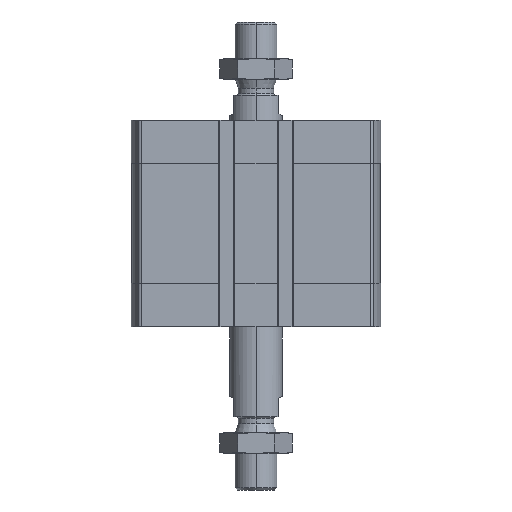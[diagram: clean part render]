
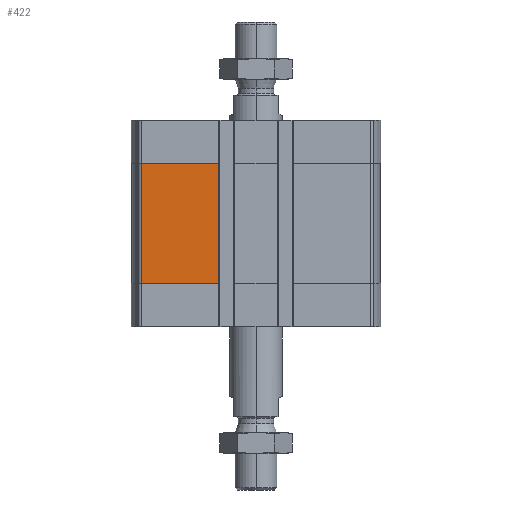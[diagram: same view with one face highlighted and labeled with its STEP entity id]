
A CAD part, left-side view. The second image highlights one B-rep face of the part: STEP entity #422.
In plain terms, the highlighted planar face has unit normal (-1, 0, 0).
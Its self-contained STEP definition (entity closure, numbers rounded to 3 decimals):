
#422 = ADVANCED_FACE ( 'NONE', ( #2578 ), #6779, .T. ) ;
#1522 = LINE ( 'NONE', #8152, #9710 ) ;
#2482 = DIRECTION ( 'NONE',  ( -1., 0., 0. ) ) ;
#2578 = FACE_OUTER_BOUND ( 'NONE', #16997, .T. ) ;
#2949 = ORIENTED_EDGE ( 'NONE', *, *, #13281, .F. ) ;
#3519 = LINE ( 'NONE', #14476, #5294 ) ;
#3626 = ORIENTED_EDGE ( 'NONE', *, *, #10074, .F. ) ;
#4252 = LINE ( 'NONE', #5695, #8572 ) ;
#4602 = VERTEX_POINT ( 'NONE', #10110 ) ;
#4980 = LINE ( 'NONE', #12047, #14545 ) ;
#5202 = DIRECTION ( 'NONE',  ( 0., 0., 1. ) ) ;
#5294 = VECTOR ( 'NONE', #7453, 1000. ) ;
#5539 = CARTESIAN_POINT ( 'NONE',  ( -47.5, 14.3, -62.5 ) ) ;
#5695 = CARTESIAN_POINT ( 'NONE',  ( -47.5, 43.743, -62.5 ) ) ;
#6205 = VERTEX_POINT ( 'NONE', #5539 ) ;
#6480 = DIRECTION ( 'NONE',  ( 0., 0., 1. ) ) ;
#6779 = PLANE ( 'NONE',  #17181 ) ;
#7453 = DIRECTION ( 'NONE',  ( 0., -1., 0. ) ) ;
#7990 = DIRECTION ( 'NONE',  ( 0., 0., 1. ) ) ;
#8152 = CARTESIAN_POINT ( 'NONE',  ( -47.5, 43.743, -62.5 ) ) ;
#8572 = VECTOR ( 'NONE', #13590, 1000. ) ;
#8626 = EDGE_CURVE ( 'NONE', #15901, #6205, #4252, .T. ) ;
#8895 = EDGE_CURVE ( 'NONE', #6205, #4602, #4980, .T. ) ;
#9222 = CARTESIAN_POINT ( 'NONE',  ( -47.5, 43.743, -16.5 ) ) ;
#9397 = ORIENTED_EDGE ( 'NONE', *, *, #8895, .T. ) ;
#9710 = VECTOR ( 'NONE', #7990, 1000. ) ;
#10074 = EDGE_CURVE ( 'NONE', #14011, #4602, #3519, .T. ) ;
#10110 = CARTESIAN_POINT ( 'NONE',  ( -47.5, 14.3, -16.5 ) ) ;
#12047 = CARTESIAN_POINT ( 'NONE',  ( -47.5, 14.3, -62.5 ) ) ;
#12354 = CARTESIAN_POINT ( 'NONE',  ( -47.5, 43.743, -62.5 ) ) ;
#13281 = EDGE_CURVE ( 'NONE', #15901, #14011, #1522, .T. ) ;
#13590 = DIRECTION ( 'NONE',  ( 0., -1., 0. ) ) ;
#14011 = VERTEX_POINT ( 'NONE', #9222 ) ;
#14476 = CARTESIAN_POINT ( 'NONE',  ( -47.5, 43.743, -16.5 ) ) ;
#14545 = VECTOR ( 'NONE', #6480, 1000. ) ;
#14578 = CARTESIAN_POINT ( 'NONE',  ( -47.5, 43.743, -62.5 ) ) ;
#15254 = ORIENTED_EDGE ( 'NONE', *, *, #8626, .T. ) ;
#15901 = VERTEX_POINT ( 'NONE', #14578 ) ;
#16997 = EDGE_LOOP ( 'NONE', ( #3626, #2949, #15254, #9397 ) ) ;
#17181 = AXIS2_PLACEMENT_3D ( 'NONE', #12354, #2482, #5202 ) ;
